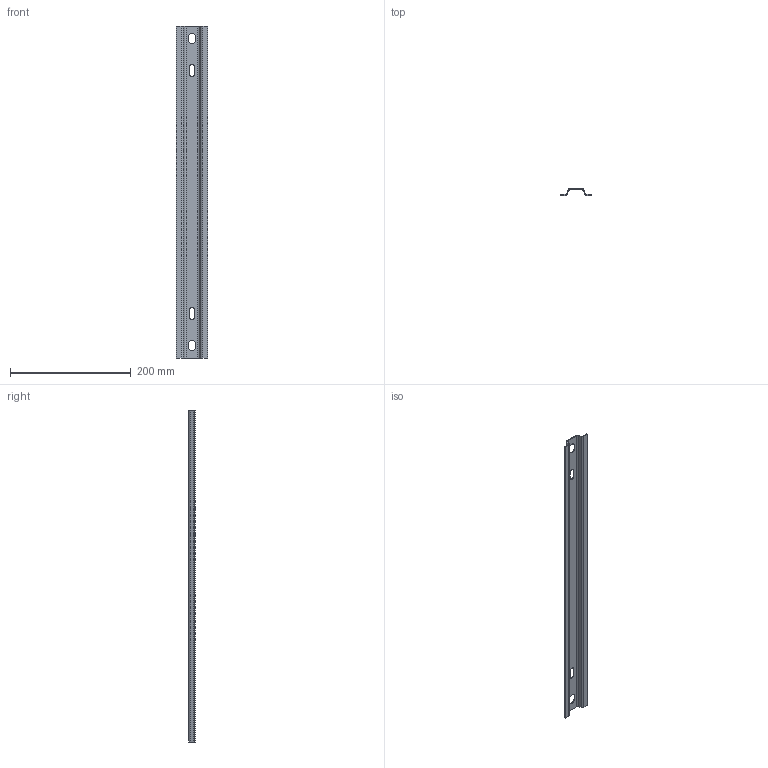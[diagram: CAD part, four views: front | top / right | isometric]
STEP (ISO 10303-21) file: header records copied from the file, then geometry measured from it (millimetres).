
FILE_DESCRIPTION (( 'STEP AP203' ), '1' );
FILE_NAME ('TB 450.STEP', '2024-09-05T04:24:23', ( '' ), ( '' ), 'SwSTEP 2.0', 'SolidWorks 2023', '' );
FILE_SCHEMA (( 'CONFIG_CONTROL_DESIGN' ));
Length unit declared in the file: millimetre
Products named in the file (1): TB 450
Bounding box: 52 x 11 x 550 mm (x, y, z)
Volume: 40906.2 mm3; surface area: 69884.3 mm2
Topology: 1 solids, 1 shells, 54 faces, 124 edges, 72 vertices
Faces by surface type: plane 38, cylinder 16
Entity records: 1577 total; most frequent: DIRECTION 266, CARTESIAN_POINT 251, ORIENTED_EDGE 248, EDGE_CURVE 124, LINE 92, VECTOR 92, AXIS2_PLACEMENT_3D 87, VERTEX_POINT 72
